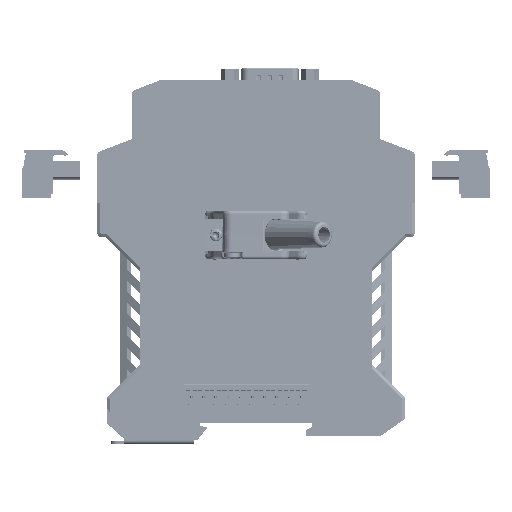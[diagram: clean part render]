
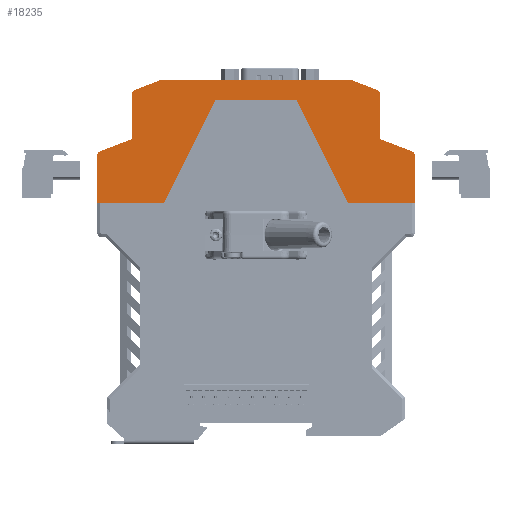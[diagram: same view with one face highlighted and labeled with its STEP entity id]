
A CAD part, left-side view. The second image highlights one B-rep face of the part: STEP entity #18235.
In plain terms, the highlighted planar face has unit normal (-1, 0, 0).
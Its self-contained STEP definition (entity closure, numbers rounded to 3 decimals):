
#18235=ADVANCED_FACE('',(#174463),#174465,.T.);
#174463=FACE_BOUND('',#174464,.T.);
#174464=EDGE_LOOP('',(#307733,#307734,#307735,#307736,#307737,#307738,#307739,#307740,
#307741,#307742,#307743,#307744,#307745,#307746,#307747,#307748,#307749,#307750));
#174465=PLANE('',#174466);
#174466=AXIS2_PLACEMENT_3D('',#174467,#174468,#174469);
#174467=CARTESIAN_POINT('',(-45.2,-26.857,85.967));
#174468=DIRECTION('',(-1.,0.,0.));
#174469=DIRECTION('',(0.,-1.,0.));
#307733=ORIENTED_EDGE('',*,*,#411808,.T.);
#307734=ORIENTED_EDGE('',*,*,#411805,.T.);
#307735=ORIENTED_EDGE('',*,*,#412073,.T.);
#307736=ORIENTED_EDGE('',*,*,#411852,.F.);
#307737=ORIENTED_EDGE('',*,*,#411851,.F.);
#307738=ORIENTED_EDGE('',*,*,#411847,.F.);
#307739=ORIENTED_EDGE('',*,*,#411908,.T.);
#307740=ORIENTED_EDGE('',*,*,#411907,.T.);
#307741=ORIENTED_EDGE('',*,*,#411887,.F.);
#307742=ORIENTED_EDGE('',*,*,#411870,.T.);
#307743=ORIENTED_EDGE('',*,*,#411837,.F.);
#307744=ORIENTED_EDGE('',*,*,#411834,.F.);
#307745=ORIENTED_EDGE('',*,*,#411815,.F.);
#307746=ORIENTED_EDGE('',*,*,#411740,.F.);
#307747=ORIENTED_EDGE('',*,*,#411764,.T.);
#307748=ORIENTED_EDGE('',*,*,#411814,.F.);
#307749=ORIENTED_EDGE('',*,*,#411812,.F.);
#307750=ORIENTED_EDGE('',*,*,#411810,.T.);
#411740=EDGE_CURVE('',#469259,#469261,#469262,.T.);
#411764=EDGE_CURVE('',#469259,#469302,#469304,.T.);
#411805=EDGE_CURVE('',#469359,#469360,#469361,.T.);
#411808=EDGE_CURVE('',#469364,#469359,#469365,.T.);
#411810=EDGE_CURVE('',#469367,#469364,#469368,.T.);
#411812=EDGE_CURVE('',#469367,#469370,#469371,.T.);
#411814=EDGE_CURVE('',#469370,#469302,#469373,.T.);
#411815=EDGE_CURVE('',#469261,#469374,#469375,.T.);
#411834=EDGE_CURVE('',#469374,#469402,#469403,.T.);
#411837=EDGE_CURVE('',#469402,#469406,#469407,.T.);
#411847=EDGE_CURVE('',#469417,#469418,#469419,.T.);
#411851=EDGE_CURVE('',#469418,#469422,#469424,.T.);
#411852=EDGE_CURVE('',#469422,#469425,#469426,.T.);
#411870=EDGE_CURVE('',#469453,#469406,#469454,.T.);
#411887=EDGE_CURVE('',#469453,#469484,#469485,.T.);
#411907=EDGE_CURVE('',#469515,#469484,#469517,.T.);
#411908=EDGE_CURVE('',#469417,#469515,#469518,.T.);
#412073=EDGE_CURVE('',#469360,#469425,#469747,.T.);
#469259=VERTEX_POINT('',#565121);
#469261=VERTEX_POINT('',#565125);
#469262=LINE('',#565126,#565127);
#469302=VERTEX_POINT('',#565212);
#469304=LINE('',#565216,#565217);
#469359=VERTEX_POINT('',#565353);
#469360=VERTEX_POINT('',#565354);
#469361=LINE('',#565355,#565356);
#469364=VERTEX_POINT('',#565364);
#469365=CIRCLE('',#565365,1.5);
#469367=VERTEX_POINT('',#565372);
#469368=LINE('',#565373,#565374);
#469370=VERTEX_POINT('',#565379);
#469371=LINE('',#565380,#565381);
#469373=CIRCLE('',#565386,1.5);
#469374=VERTEX_POINT('',#565390);
#469375=LINE('',#565391,#565392);
#469402=VERTEX_POINT('',#565456);
#469403=LINE('',#565457,#565458);
#469406=VERTEX_POINT('',#565466);
#469407=LINE('',#565467,#565468);
#469417=VERTEX_POINT('',#565497);
#469418=VERTEX_POINT('',#565498);
#469419=LINE('',#565499,#565500);
#469422=VERTEX_POINT('',#565508);
#469424=CIRCLE('',#565512,1.5);
#469425=VERTEX_POINT('',#565516);
#469426=LINE('',#565517,#565518);
#469453=VERTEX_POINT('',#565580);
#469454=LINE('',#565581,#565582);
#469484=VERTEX_POINT('',#565645);
#469485=LINE('',#565646,#565647);
#469515=VERTEX_POINT('',#565714);
#469517=CIRCLE('',#565718,1.5);
#469518=LINE('',#565722,#565723);
#469747=LINE('',#566285,#566286);
#565121=CARTESIAN_POINT('',(-45.2,-49.5,68.5));
#565125=CARTESIAN_POINT('',(-45.2,-28.75,68.5));
#565126=CARTESIAN_POINT('',(-45.2,-49.5,68.5));
#565127=VECTOR('',#565128,1.);
#565128=DIRECTION('',(0.,1.,0.));
#565212=CARTESIAN_POINT('',(-45.2,-49.5,83.368));
#565216=CARTESIAN_POINT('',(-45.2,-49.5,68.5));
#565217=VECTOR('',#565218,1.);
#565218=DIRECTION('',(0.,0.,1.));
#565353=CARTESIAN_POINT('',(-45.2,-37.838,103.838));
#565354=CARTESIAN_POINT('',(-45.2,-29.6,107.));
#565355=CARTESIAN_POINT('',(-45.2,-37.838,103.838));
#565356=VECTOR('',#565357,1.);
#565357=DIRECTION('',(0.,0.934,0.358));
#565364=CARTESIAN_POINT('',(-45.2,-38.8,102.438));
#565365=AXIS2_PLACEMENT_3D('',#565366,#565367,#565368);
#565366=CARTESIAN_POINT('',(-45.2,-37.3,102.438));
#565367=DIRECTION('',(-1.,0.,0.));
#565368=DIRECTION('',(0.,-1.,0.));
#565372=CARTESIAN_POINT('',(-45.2,-38.8,88.5));
#565373=CARTESIAN_POINT('',(-45.2,-38.8,88.5));
#565374=VECTOR('',#565375,1.);
#565375=DIRECTION('',(0.,0.,1.));
#565379=CARTESIAN_POINT('',(-45.2,-48.537,84.769));
#565380=CARTESIAN_POINT('',(-45.2,-38.8,88.5));
#565381=VECTOR('',#565382,1.);
#565382=DIRECTION('',(0.,-0.934,-0.358));
#565386=AXIS2_PLACEMENT_3D('',#565387,#565388,#565389);
#565387=CARTESIAN_POINT('',(-45.2,-48.,83.368));
#565388=DIRECTION('',(1.,0.,0.));
#565389=DIRECTION('',(0.,-0.358,0.934));
#565390=CARTESIAN_POINT('',(-45.2,-12.7,100.7));
#565391=CARTESIAN_POINT('',(-45.2,-28.75,68.5));
#565392=VECTOR('',#565393,1.);
#565393=DIRECTION('',(0.,0.446,0.895));
#565456=CARTESIAN_POINT('',(-45.2,12.7,100.7));
#565457=CARTESIAN_POINT('',(-45.2,-12.7,100.7));
#565458=VECTOR('',#565459,1.);
#565459=DIRECTION('',(0.,1.,0.));
#565466=CARTESIAN_POINT('',(-45.2,28.75,68.5));
#565467=CARTESIAN_POINT('',(-45.2,12.7,100.7));
#565468=VECTOR('',#565469,1.);
#565469=DIRECTION('',(0.,0.446,-0.895));
#565497=CARTESIAN_POINT('',(-45.2,38.8,88.5));
#565498=CARTESIAN_POINT('',(-45.2,38.8,102.438));
#565499=CARTESIAN_POINT('',(-45.2,38.8,88.5));
#565500=VECTOR('',#565501,1.);
#565501=DIRECTION('',(0.,0.,1.));
#565508=CARTESIAN_POINT('',(-45.2,37.838,103.838));
#565512=AXIS2_PLACEMENT_3D('',#565513,#565514,#565515);
#565513=CARTESIAN_POINT('',(-45.2,37.3,102.438));
#565514=DIRECTION('',(1.,0.,0.));
#565515=DIRECTION('',(0.,1.,0.));
#565516=CARTESIAN_POINT('',(-45.2,29.6,107.));
#565517=CARTESIAN_POINT('',(-45.2,37.838,103.838));
#565518=VECTOR('',#565519,1.);
#565519=DIRECTION('',(0.,-0.934,0.358));
#565580=CARTESIAN_POINT('',(-45.2,49.5,68.5));
#565581=CARTESIAN_POINT('',(-45.2,49.5,68.5));
#565582=VECTOR('',#565583,1.);
#565583=DIRECTION('',(0.,-1.,0.));
#565645=CARTESIAN_POINT('',(-45.2,49.5,83.368));
#565646=CARTESIAN_POINT('',(-45.2,49.5,68.5));
#565647=VECTOR('',#565648,1.);
#565648=DIRECTION('',(0.,0.,1.));
#565714=CARTESIAN_POINT('',(-45.2,48.537,84.769));
#565718=AXIS2_PLACEMENT_3D('',#565719,#565720,#565721);
#565719=CARTESIAN_POINT('',(-45.2,48.,83.368));
#565720=DIRECTION('',(-1.,0.,0.));
#565721=DIRECTION('',(0.,0.358,0.934));
#565722=CARTESIAN_POINT('',(-45.2,38.8,88.5));
#565723=VECTOR('',#565724,1.);
#565724=DIRECTION('',(0.,0.934,-0.358));
#566285=CARTESIAN_POINT('',(-45.2,-29.6,107.));
#566286=VECTOR('',#566287,1.);
#566287=DIRECTION('',(0.,1.,0.));
